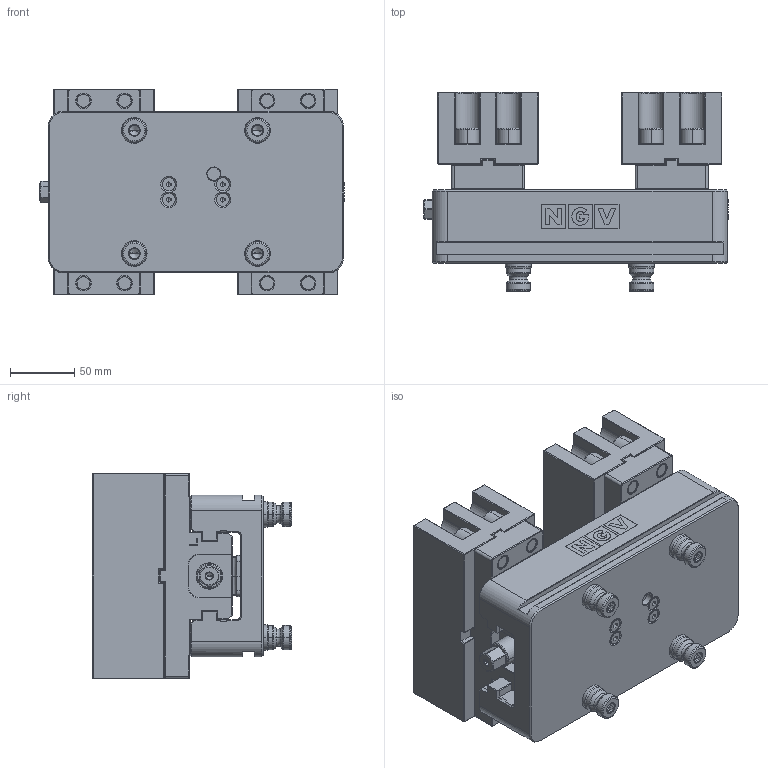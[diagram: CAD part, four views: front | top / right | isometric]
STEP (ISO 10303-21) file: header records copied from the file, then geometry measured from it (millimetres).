
FILE_DESCRIPTION((''),'2;1');
FILE_NAME('SJV126M-XL_00_0_ASM','2025-06-27T',('Bogdan'),('umc'),'PRO/ENGINEER BY PARAMETRIC TECHNOLOGY CORPORATION, 2010280','PRO/ENGINEER BY PARAMETRIC TECHNOLOGY CORPORATION, 2010280','');
FILE_SCHEMA(('CONFIG_CONTROL_DESIGN'));
Length unit declared in the file: millimetre
Products named in the file (12): CORP_1; SEMICUPLA; SURUB_1; INEL_O_15X1SI8_INST; SURUB_M5X20; PIN_CENTRARE_20; STIFT_FILETAT_M10X24; SIG2-SANIE_STANGA; SIG2-SANIE_DREAPTA; BJSM126S-XL_10_0_BAC_MOALE_OTEL; SURUB_CAP_INBUS_M12X35; SJV126M-XL_00_0_ASM
Assembly tree (30 placements, depth 2):
  SJV126M-XL_00_0_ASM
    CORP_1
    SEMICUPLA  x2
    SURUB_1
    INEL_O_15X1SI8_INST  x2
    SURUB_M5X20  x4
    PIN_CENTRARE_20  x4
    STIFT_FILETAT_M10X24  x4
    SIG2-SANIE_STANGA
    SIG2-SANIE_DREAPTA
    BJSM126S-XL_10_0_BAC_MOALE_OTEL  x2
    SURUB_CAP_INBUS_M12X35  x8
Bounding box: 237 x 155 x 160 mm (x, y, z)
Volume: 3009761.9 mm3; surface area: 424632.3 mm2
Topology: 30 solids, 66 shells, 2053 faces, 5048 edges, 3105 vertices
Faces by surface type: plane 1110, cylinder 412, cone 389, torus 92, extrusion 38, bspline 12
Entity records: 39026 total; most frequent: CARTESIAN_POINT 8025, DIRECTION 6357, ORIENTED_EDGE 6298, EDGE_CURVE 3191, VECTOR 2221, LINE 2183, AXIS2_PLACEMENT_3D 2068, VERTEX_POINT 2000
